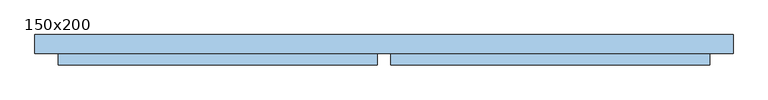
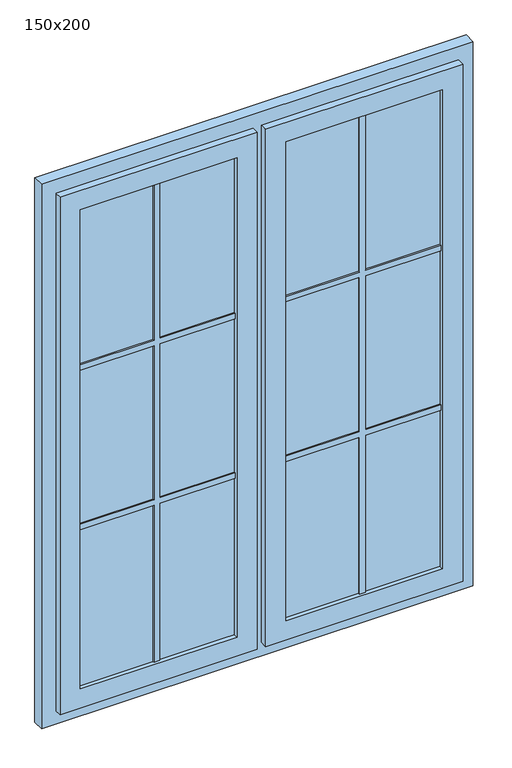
"""IFC4 building model written with IfcOpenShell, lengths in millimetres: window geometry, OKNO_2X_W_SZ : 150x200."""

from ifc_helpers import new_model, si_unit, frame, origin, place, context, project, spatial, polyline, outline, extrude, faceted_brep, source, transform, mapped, element, save


def window_150x200_12b14935(model_context):
    return source(origin(), model_context, "Body", "SolidModel", [
        extrude(outline(polyline([(2153.3333333, -367.5), (2153.3333333, -630.0), (2133.3333333, -630.0), (2133.3333333, -367.5), (1566.6666667, -367.5), (1566.6666667, -630.0), (1546.6666667, -630.0), (1546.6666667, -367.5), (970.0, -367.5), (970.0, -347.5), (1546.6666667, -347.5), (1546.6666667, -85.0), (1566.6666667, -85.0), (1566.6666667, -347.5), (2133.3333333, -347.5), (2133.3333333, -85.0), (2153.3333333, -85.0), (2153.3333333, -347.5), (2730.0, -347.5), (2730.0, -367.5), (2153.3333333, -367.5)])), frame((0.0, 35.0, 0.0), z_axis=(0.0, 1.0, 0.0), x_axis=(0.0, 0.0, 1.0)), (0.0, 0.0, 1.0), 20.0),
        extrude(outline(polyline([(1546.6666667, 367.5), (1546.6666667, 630.0), (1566.6666667, 630.0), (1566.6666667, 367.5), (2133.3333333, 367.5), (2133.3333333, 630.0), (2153.3333333, 630.0), (2153.3333333, 367.5), (2730.0, 367.5), (2730.0, 347.5), (2153.3333333, 347.5), (2153.3333333, 85.0), (2133.3333333, 85.0), (2133.3333333, 347.5), (1566.6666667, 347.5), (1566.6666667, 85.0), (1546.6666667, 85.0), (1546.6666667, 347.5), (970.0, 347.5), (970.0, 367.5), (1546.6666667, 367.5)])), frame((0.0, 35.0, 0.0), z_axis=(0.0, 1.0, 0.0), x_axis=(0.0, 0.0, 1.0)), (0.0, 0.0, 1.0), 20.0),
        extrude(outline(polyline([(-85.0, 50.0), (-85.0, 40.0), (-630.0, 40.0), (-630.0, 50.0), (-85.0, 50.0)])), frame((0.0, 0.0, 970.0), z_axis=(0.0, 0.0, 1.0), x_axis=(1.0, 0.0, 0.0)), (0.0, 0.0, 1.0), 1760.0),
        extrude(outline(polyline([(630.0, 50.0), (630.0, 40.0), (85.0, 40.0), (85.0, 50.0), (630.0, 50.0)])), frame((0.0, 0.0, 970.0), z_axis=(0.0, 0.0, 1.0), x_axis=(1.0, 0.0, 0.0)), (0.0, 0.0, 1.0), 1760.0),
        faceted_brep([(-85.0, 25.0, 2730.0), (-85.0, 65.0, 2730.0), (-85.0, 65.0, 970.0), (-85.0, 25.0, 970.0), (-35.0, 65.0, 2780.0), (-35.0, 65.0, 920.0), (-680.0, 65.0, 920.0), (-680.0, 65.0, 2780.0), (-630.0, 65.0, 2730.0), (-630.0, 65.0, 970.0), (-630.0, 25.0, 970.0), (-700.0, 25.0, 2800.0), (-700.0, 25.0, 900.0), (-15.0, 25.0, 900.0), (-15.0, 25.0, 2800.0), (-630.0, 25.0, 2730.0), (-15.0, 50.0, 2800.0), (-15.0, 50.0, 900.0), (-700.0, 50.0, 900.0), (-700.0, 50.0, 2800.0), (-680.0, 50.0, 2780.0), (-680.0, 50.0, 920.0), (-35.0, 50.0, 920.0), (-35.0, 50.0, 2780.0)], [[[0, 1, 2, 3]], [[4, 5, 6, 7], [8, 9, 2, 1]], [[3, 2, 9, 10]], [[11, 12, 13, 14], [0, 3, 10, 15]], [[16, 14, 13, 17]], [[17, 13, 12, 18]], [[16, 17, 18, 19], [20, 21, 22, 23]], [[4, 23, 22, 5]], [[5, 22, 21, 6]], [[10, 9, 8, 15]], [[18, 12, 11, 19]], [[6, 21, 20, 7]], [[15, 8, 1, 0]], [[19, 11, 14, 16]], [[7, 20, 23, 4]]]),
        faceted_brep([(630.0, 25.0, 2730.0), (630.0, 65.0, 2730.0), (630.0, 65.0, 970.0), (630.0, 25.0, 970.0), (85.0, 65.0, 970.0), (85.0, 25.0, 970.0), (35.0, 65.0, 920.0), (35.0, 65.0, 2780.0), (680.0, 65.0, 2780.0), (680.0, 65.0, 920.0), (85.0, 65.0, 2730.0), (85.0, 25.0, 2730.0), (700.0, 25.0, 900.0), (700.0, 25.0, 2800.0), (15.0, 25.0, 2800.0), (15.0, 25.0, 900.0), (700.0, 50.0, 2800.0), (700.0, 50.0, 900.0), (15.0, 50.0, 900.0), (15.0, 50.0, 2800.0), (680.0, 50.0, 920.0), (680.0, 50.0, 2780.0), (35.0, 50.0, 2780.0), (35.0, 50.0, 920.0)], [[[0, 1, 2, 3]], [[3, 2, 4, 5]], [[6, 7, 8, 9], [2, 1, 10, 4]], [[5, 4, 10, 11]], [[12, 13, 14, 15], [5, 11, 0, 3]], [[16, 13, 12, 17]], [[17, 12, 15, 18]], [[18, 15, 14, 19]], [[18, 19, 16, 17], [20, 21, 22, 23]], [[8, 21, 20, 9]], [[9, 20, 23, 6]], [[6, 23, 22, 7]], [[11, 10, 1, 0]], [[19, 14, 13, 16]], [[7, 22, 21, 8]]]),
        extrude(outline(polyline([(2850.0, 750.0), (2850.0, -750.0), (850.0, -750.0), (850.0, 750.0), (2850.0, 750.0)]), holes=[polyline([(2780.0, 680.0), (920.0, 680.0), (920.0, 35.0), (2780.0, 35.0), (2780.0, 680.0)]), polyline([(2780.0, -35.0), (920.0, -35.0), (920.0, -680.0), (2780.0, -680.0), (2780.0, -35.0)])]), frame((0.0, 50.0, 0.0), z_axis=(0.0, 1.0, 0.0), x_axis=(0.0, 0.0, 1.0)), (0.0, 0.0, 1.0), 40.0),
    ])


if __name__ == "__main__":
    model = new_model("IFC4")
    model_context = context("Model", 3, world=origin())
    ifc_project = project(units=[si_unit("LENGTHUNIT", "METRE", prefix="MILLI")], contexts=[model_context])
    site = spatial("IfcSite", under=ifc_project)
    building = spatial("IfcBuilding", under=site)
    placement = place(None, origin())
    window_150x200_shape = window_150x200_12b14935(model_context)
    element("IfcWindow", 1, ObjectType="OKNO_2X_W_SZ : 150x200", at=placement, inside=building, context=model_context, shape_type="MappedRepresentation", body=[
        mapped(window_150x200_shape, transform((0.0, 0.0, 0.0), x_axis=(1.0, 0.0, 0.0), y_axis=(0.0, 1.0, 0.0), z_axis=(0.0, 0.0, 1.0))),
    ])
    save(model, "model.ifc")
